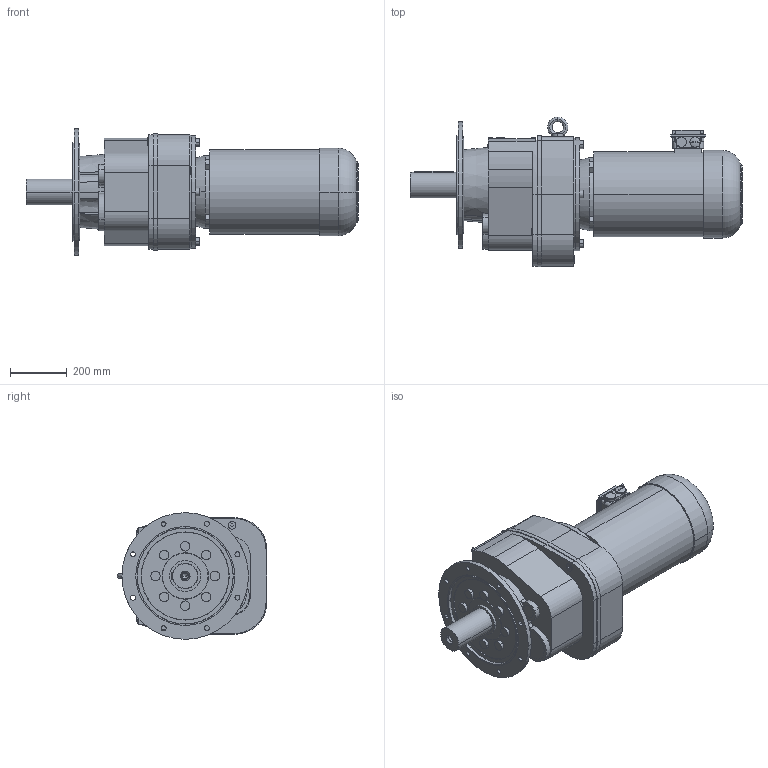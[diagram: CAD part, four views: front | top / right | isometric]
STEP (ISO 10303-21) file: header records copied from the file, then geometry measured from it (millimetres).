
FILE_DESCRIPTION(('STEP AP214'),'1');
FILE_NAME('STEP-File.stp','2018-01-01T00:00:00',(' '),('KEB'),' ','KEB-DRIVE',' ');
FILE_SCHEMA(('AUTOMOTIVE_DESIGN { 1 0 10303 214 1 1 1 1 }'));
Length unit declared in the file: millimetre
Products named in the file (10): g8b; w8_we_90x170; c8_450; cs8; dm160_kkn; kk10; PLUG_M32; SCREW-PLUG_M32; ndm160; G82C DM160MB4§CAD13
Assembly tree (9 placements, depth 2):
  G82C DM160MB4§CAD13
    g8b
    w8_we_90x170
    c8_450
    cs8
    dm160_kkn
    kk10
    PLUG_M32
    SCREW-PLUG_M32
    ndm160
Bounding box: 1174.49 x 530 x 447.93 mm (x, y, z)
Volume: 97330167.1 mm3; surface area: 2515311.2 mm2
Topology: 9 solids, 9 shells, 389 faces, 937 edges, 616 vertices
Faces by surface type: plane 201, cylinder 132, cone 36, torus 16, bspline 4
Entity records: 14726 total; most frequent: CARTESIAN_POINT 5794, ORIENTED_EDGE 1870, DIRECTION 1646, EDGE_CURVE 935, VERTEX_POINT 616, AXIS2_PLACEMENT_3D 580, VECTOR 486, LINE 486
